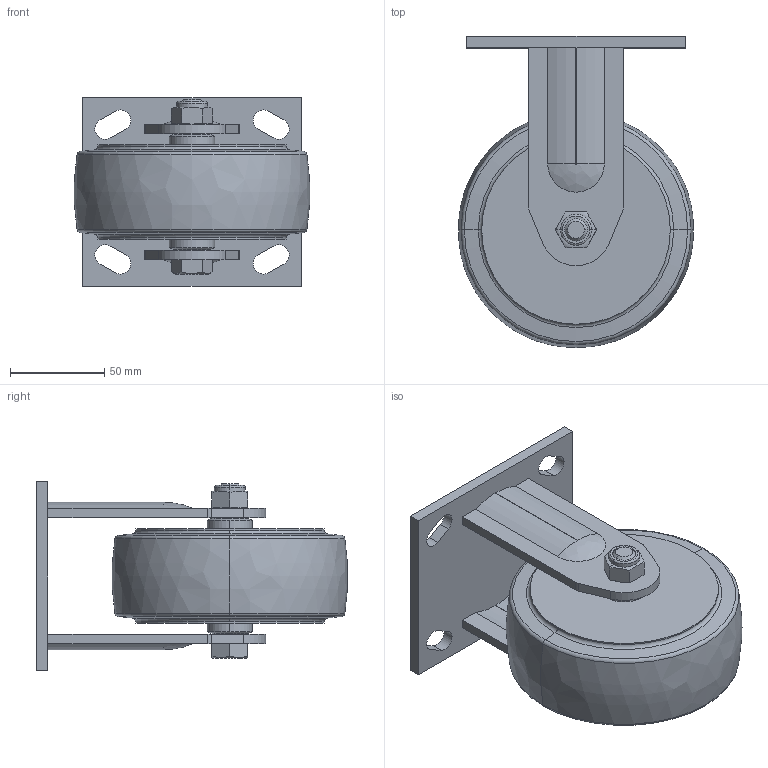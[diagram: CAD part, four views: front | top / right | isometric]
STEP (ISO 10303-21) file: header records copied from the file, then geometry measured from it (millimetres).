
FILE_DESCRIPTION((''),'2;1');
FILE_NAME('73105-735-86_ASM','2020-11-25T',('lenovo'),(''),'PRO/ENGINEER BY PARAMETRIC TECHNOLOGY CORPORATION, 2010280','PRO/ENGINEER BY PARAMETRIC TECHNOLOGY CORPORATION, 2010280','');
FILE_SCHEMA(('CONFIG_CONTROL_DESIGN'));
Length unit declared in the file: millimetre
Products named in the file (6): 7310-200; 7315-351; 735-86; 7010-33; 7010-34; 73105-735-86_ASM
Assembly tree (5 placements, depth 2):
  73105-735-86_ASM
    7310-200
    7315-351
    735-86
    7010-33
    7010-34
Bounding box: 124.65 x 164.83 x 100 mm (x, y, z)
Volume: 712620.1 mm3; surface area: 97259 mm2
Topology: 6 solids, 6 shells, 139 faces, 328 edges, 206 vertices
Faces by surface type: plane 55, cylinder 44, cone 20, torus 14, bspline 6
Entity records: 4479 total; most frequent: CARTESIAN_POINT 1056, DIRECTION 738, ORIENTED_EDGE 656, EDGE_CURVE 328, AXIS2_PLACEMENT_3D 290, VERTEX_POINT 206, VECTOR 158, LINE 158
